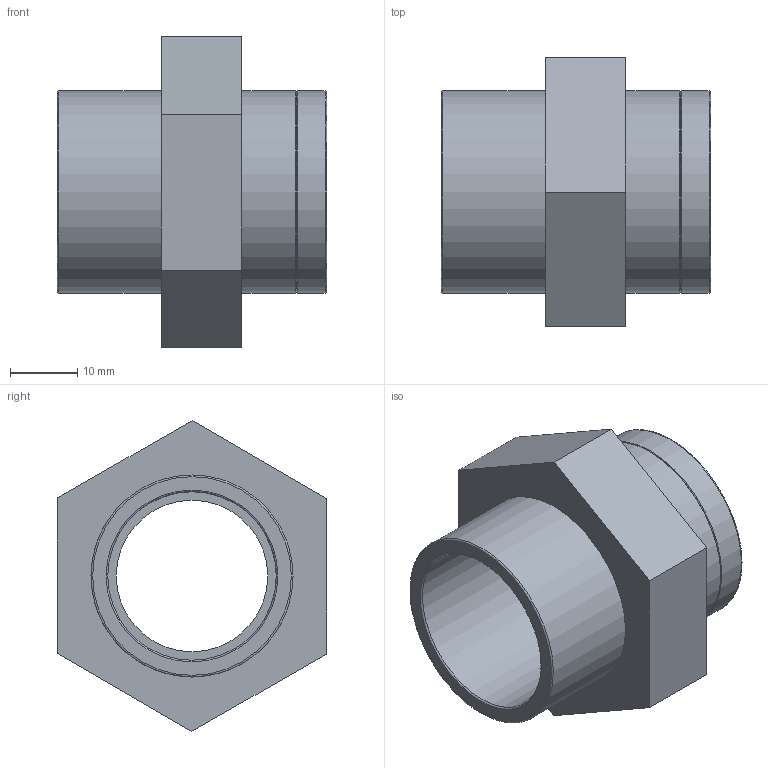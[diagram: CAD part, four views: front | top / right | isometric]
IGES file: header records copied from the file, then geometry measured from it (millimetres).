
Global section: file name: 057102025007.ipt; native system: Autodesk Inventor 2015; preprocessor: unknown; author: KIM; date: 20171207.165806; units: millimetre
Bounding box: 40 x 40.06 x 46.19 mm (x, y, z)
Volume: 17672.2 mm3; surface area: 9316.8 mm2
Topology: 1 solids, 1 shells, 24 faces, 61 edges, 43 vertices
Faces by surface type: plane 12, revolution 7, cylinder 3, cone 2
Full cylindrical faces by diameter (mm): 30 x3
